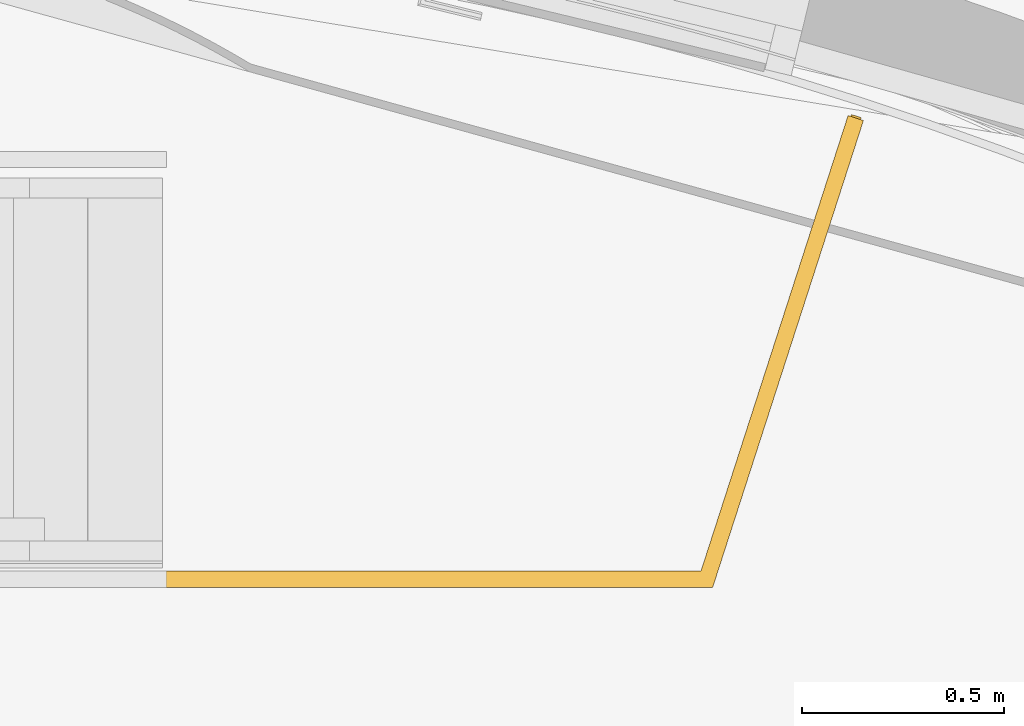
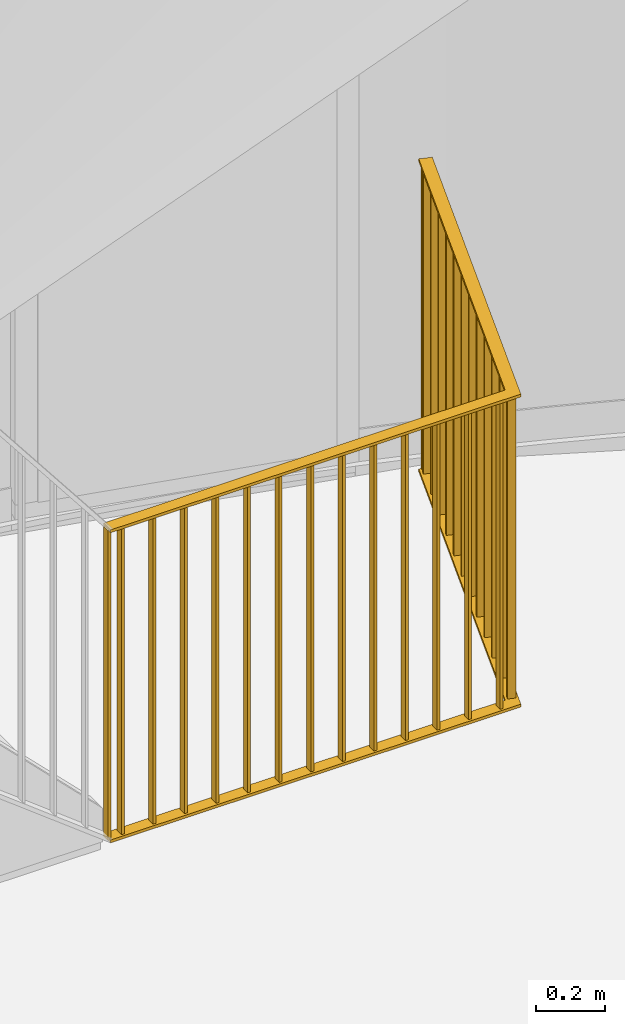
# One storey, part 66 of 66: 1 railing.
"""IFC2X3 building model written with IfcOpenShell, lengths in millimetres."""

from ifc_helpers import new_model, entity, si_unit, converted_unit, derived_unit, direction, frame, origin, place, context, subcontext, project, spatial, faceted_brep, material, material_list, element, save


model = new_model("IFC2X3")

# Units and contexts
model_context = context("Model", 3, precision=0.01, world=origin(), true_north=direction((6.12303176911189e-17, 1.0)))
body_context = subcontext(model_context, "Body", "Model", "MODEL_VIEW")
ifc_project = project(units=[si_unit("LENGTHUNIT", "METRE", prefix="MILLI"), si_unit("AREAUNIT", "SQUARE_METRE"), si_unit("VOLUMEUNIT", "CUBIC_METRE"), converted_unit("PLANEANGLEUNIT", "DEGREE", entity("IfcRatioMeasure", 0.0174532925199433), si_unit("PLANEANGLEUNIT", "RADIAN"), dimensions=[0, 0, 0, 0, 0, 0, 0]), si_unit("MASSUNIT", "GRAM", prefix="KILO"), derived_unit("MASSDENSITYUNIT", [(si_unit("MASSUNIT", "GRAM", prefix="KILO"), 1), (si_unit("LENGTHUNIT", "METRE"), -3)]), derived_unit("MOMENTOFINERTIAUNIT", [(si_unit("LENGTHUNIT", "METRE"), 4)]), si_unit("TIMEUNIT", "SECOND"), si_unit("FREQUENCYUNIT", "HERTZ"), si_unit("THERMODYNAMICTEMPERATUREUNIT", "DEGREE_CELSIUS"), derived_unit("THERMALTRANSMITTANCEUNIT", [(si_unit("MASSUNIT", "GRAM", prefix="KILO"), 1), (si_unit("THERMODYNAMICTEMPERATUREUNIT", "KELVIN"), -1), (si_unit("TIMEUNIT", "SECOND"), -3)]), derived_unit("VOLUMETRICFLOWRATEUNIT", [(si_unit("LENGTHUNIT", "METRE"), 3), (si_unit("TIMEUNIT", "SECOND"), -1)]), si_unit("ELECTRICCURRENTUNIT", "AMPERE"), si_unit("ELECTRICVOLTAGEUNIT", "VOLT"), si_unit("POWERUNIT", "WATT"), si_unit("FORCEUNIT", "NEWTON", prefix="KILO"), si_unit("ILLUMINANCEUNIT", "LUX"), si_unit("LUMINOUSFLUXUNIT", "LUMEN"), si_unit("LUMINOUSINTENSITYUNIT", "CANDELA"), derived_unit("USERDEFINED", [(si_unit("MASSUNIT", "GRAM", prefix="KILO"), -1), (si_unit("LENGTHUNIT", "METRE"), -2), (si_unit("TIMEUNIT", "SECOND"), 3), (si_unit("LUMINOUSFLUXUNIT", "LUMEN"), 1)]), derived_unit("LINEARVELOCITYUNIT", [(si_unit("LENGTHUNIT", "METRE"), 1), (si_unit("TIMEUNIT", "SECOND"), -1)]), si_unit("PRESSUREUNIT", "PASCAL"), derived_unit("USERDEFINED", [(si_unit("LENGTHUNIT", "METRE"), -2), (si_unit("MASSUNIT", "GRAM", prefix="KILO"), 1), (si_unit("TIMEUNIT", "SECOND"), -2)]), derived_unit("LINEARFORCEUNIT", [(si_unit("MASSUNIT", "GRAM", prefix="KILO"), 1), (si_unit("LENGTHUNIT", "METRE"), 1), (si_unit("TIMEUNIT", "SECOND"), -2), (si_unit("LENGTHUNIT", "METRE"), -1)]), derived_unit("PLANARFORCEUNIT", [(si_unit("MASSUNIT", "GRAM", prefix="KILO"), 1), (si_unit("LENGTHUNIT", "METRE"), 1), (si_unit("TIMEUNIT", "SECOND"), -2), (si_unit("LENGTHUNIT", "METRE"), -2)])], contexts=[model_context])

# Site, building, storey
site_placement = place(None, origin())
site = spatial("IfcSite", under=ifc_project, at=site_placement, Name="Default", CompositionType="ELEMENT")
building_placement = place(site_placement, origin())
building = spatial("IfcBuilding", under=site, at=building_placement, Name="-", CompositionType="ELEMENT")
storey_placement = place(building_placement, frame((0.0, 0.0, 3070.0)))
storey = spatial("IfcBuildingStorey", under=building, at=storey_placement, Name="01 eerste verdieping", CompositionType="ELEMENT", Elevation=3070.00000000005)

# Railing
ifc_material_1 = material(Name="AL_Aluminium antraciet")
ifc_material_2 = material(Name="AL_Aluminium RAL 7021")
ifc_material_list = material_list([ifc_material_1, ifc_material_2])
railing_placement = place(storey_placement, frame((51726.6203901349, 27115.5965964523, 425.0)))
element("IfcRailing", 1, at=railing_placement, inside=storey, material=ifc_material_list, Name="Railing:NLRS_34_RAI_UN_spijlen 2", ObjectType="Railing:NLRS_34_RAI_UN_spijlen 2", PredefinedType="NOTDEFINED", context=body_context, shape_type="Brep", body=[
    faceted_brep([(54.7762133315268, 7.50000000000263, 1095.0), (54.7762133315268, 32.5000000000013, 1095.0), (44.7762133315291, 32.5000000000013, 1095.0), (44.7762133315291, 7.50000000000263, 1095.0), (54.7762133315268, 7.50000000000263, 5.0), (44.7762133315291, 7.50000000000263, 5.0), (44.7762133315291, 32.5000000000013, 5.0), (54.7762133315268, 32.5000000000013, 5.0)], [[[0, 1, 2, 3]], [[4, 5, 6, 7]], [[3, 5, 4, 0]], [[2, 6, 5, 3]], [[1, 7, 6, 2]], [[0, 4, 7, 1]]]),
    faceted_brep([(159.776213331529, 7.50000000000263, 1095.0), (159.776213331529, 32.5000000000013, 1095.0), (149.776213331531, 32.5000000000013, 1095.0), (149.776213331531, 7.50000000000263, 1095.0), (159.776213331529, 7.50000000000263, 5.0), (149.776213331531, 7.50000000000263, 5.0), (149.776213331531, 32.5000000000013, 5.0), (159.776213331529, 32.5000000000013, 5.0)], [[[0, 1, 2, 3]], [[4, 5, 6, 7]], [[3, 5, 4, 0]], [[2, 6, 5, 3]], [[1, 7, 6, 2]], [[0, 4, 7, 1]]]),
    faceted_brep([(264.776213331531, 7.50000000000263, 1095.0), (264.776213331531, 32.5000000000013, 1095.0), (254.776213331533, 32.5000000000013, 1095.0), (254.776213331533, 7.50000000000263, 1095.0), (264.776213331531, 7.50000000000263, 5.0), (254.776213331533, 7.50000000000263, 5.0), (254.776213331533, 32.5000000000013, 5.0), (264.776213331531, 32.5000000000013, 5.0)], [[[0, 1, 2, 3]], [[4, 5, 6, 7]], [[3, 5, 4, 0]], [[2, 6, 5, 3]], [[1, 7, 6, 2]], [[0, 4, 7, 1]]]),
    faceted_brep([(369.776213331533, 7.50000000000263, 1095.0), (369.776213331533, 32.5000000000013, 1095.0), (359.776213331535, 32.5000000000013, 1095.0), (359.776213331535, 7.50000000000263, 1095.0), (369.776213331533, 7.50000000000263, 5.0), (359.776213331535, 7.50000000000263, 5.0), (359.776213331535, 32.5000000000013, 5.0), (369.776213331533, 32.5000000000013, 5.0)], [[[0, 1, 2, 3]], [[4, 5, 6, 7]], [[3, 5, 4, 0]], [[2, 6, 5, 3]], [[1, 7, 6, 2]], [[0, 4, 7, 1]]]),
    faceted_brep([(474.776213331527, 7.50000000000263, 1095.0), (474.776213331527, 32.5000000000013, 1095.0), (464.776213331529, 32.5000000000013, 1095.0), (464.776213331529, 7.50000000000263, 1095.0), (474.776213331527, 7.50000000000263, 5.0), (464.776213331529, 7.50000000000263, 5.0), (464.776213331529, 32.5000000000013, 5.0), (474.776213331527, 32.5000000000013, 5.0)], [[[0, 1, 2, 3]], [[4, 5, 6, 7]], [[3, 5, 4, 0]], [[2, 6, 5, 3]], [[1, 7, 6, 2]], [[0, 4, 7, 1]]]),
    faceted_brep([(579.776213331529, 7.50000000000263, 1095.0), (579.776213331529, 32.5000000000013, 1095.0), (569.776213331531, 32.5000000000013, 1095.0), (569.776213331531, 7.50000000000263, 1095.0), (579.776213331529, 7.50000000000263, 5.0), (569.776213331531, 7.50000000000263, 5.0), (569.776213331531, 32.5000000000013, 5.0), (579.776213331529, 32.5000000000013, 5.0)], [[[0, 1, 2, 3]], [[4, 5, 6, 7]], [[3, 5, 4, 0]], [[2, 6, 5, 3]], [[1, 7, 6, 2]], [[0, 4, 7, 1]]]),
    faceted_brep([(684.776213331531, 7.50000000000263, 1095.0), (684.776213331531, 32.5000000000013, 1095.0), (674.776213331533, 32.5000000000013, 1095.0), (674.776213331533, 7.50000000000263, 1095.0), (684.776213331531, 7.50000000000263, 5.0), (674.776213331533, 7.50000000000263, 5.0), (674.776213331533, 32.5000000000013, 5.0), (684.776213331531, 32.5000000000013, 5.0)], [[[0, 1, 2, 3]], [[4, 5, 6, 7]], [[3, 5, 4, 0]], [[2, 6, 5, 3]], [[1, 7, 6, 2]], [[0, 4, 7, 1]]]),
    faceted_brep([(789.776213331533, 7.50000000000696, 1095.0), (789.776213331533, 32.5000000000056, 1095.0), (779.776213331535, 32.5000000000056, 1095.0), (779.776213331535, 7.50000000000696, 1095.0), (789.776213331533, 7.50000000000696, 5.0), (779.776213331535, 7.50000000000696, 5.0), (779.776213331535, 32.5000000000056, 5.0), (789.776213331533, 32.5000000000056, 5.0)], [[[0, 1, 2, 3]], [[4, 5, 6, 7]], [[3, 5, 4, 0]], [[2, 6, 5, 3]], [[1, 7, 6, 2]], [[0, 4, 7, 1]]]),
    faceted_brep([(894.776213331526, 7.50000000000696, 1095.0), (894.776213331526, 32.5000000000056, 1095.0), (884.776213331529, 32.5000000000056, 1095.0), (884.776213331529, 7.50000000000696, 1095.0), (894.776213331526, 7.50000000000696, 5.0), (884.776213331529, 7.50000000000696, 5.0), (884.776213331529, 32.5000000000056, 5.0), (894.776213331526, 32.5000000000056, 5.0)], [[[0, 1, 2, 3]], [[4, 5, 6, 7]], [[3, 5, 4, 0]], [[2, 6, 5, 3]], [[1, 7, 6, 2]], [[0, 4, 7, 1]]]),
    faceted_brep([(999.776213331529, 7.50000000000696, 1095.0), (999.776213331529, 32.5000000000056, 1095.0), (989.776213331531, 32.5000000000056, 1095.0), (989.776213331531, 7.50000000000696, 1095.0), (999.776213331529, 7.50000000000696, 5.0), (989.776213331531, 7.50000000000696, 5.0), (989.776213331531, 32.5000000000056, 5.0), (999.776213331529, 32.5000000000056, 5.0)], [[[0, 1, 2, 3]], [[4, 5, 6, 7]], [[3, 5, 4, 0]], [[2, 6, 5, 3]], [[1, 7, 6, 2]], [[0, 4, 7, 1]]]),
    faceted_brep([(1104.77621333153, 7.50000000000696, 1095.0), (1104.77621333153, 32.5000000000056, 1095.0), (1094.77621333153, 32.5000000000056, 1095.0), (1094.77621333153, 7.50000000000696, 1095.0), (1104.77621333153, 7.50000000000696, 5.0), (1094.77621333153, 7.50000000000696, 5.0), (1094.77621333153, 32.5000000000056, 5.0), (1104.77621333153, 32.5000000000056, 5.0)], [[[0, 1, 2, 3]], [[4, 5, 6, 7]], [[3, 5, 4, 0]], [[2, 6, 5, 3]], [[1, 7, 6, 2]], [[0, 4, 7, 1]]]),
    faceted_brep([(1209.77621333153, 7.50000000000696, 1095.0), (1209.77621333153, 32.5000000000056, 1095.0), (1199.77621333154, 32.5000000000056, 1095.0), (1199.77621333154, 7.50000000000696, 1095.0), (1209.77621333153, 7.50000000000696, 5.0), (1199.77621333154, 7.50000000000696, 5.0), (1199.77621333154, 32.5000000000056, 5.0), (1209.77621333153, 32.5000000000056, 5.0)], [[[0, 1, 2, 3]], [[4, 5, 6, 7]], [[3, 5, 4, 0]], [[2, 6, 5, 3]], [[1, 7, 6, 2]], [[0, 4, 7, 1]]]),
    faceted_brep([(1314.77621333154, 7.50000000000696, 1095.0), (1314.77621333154, 32.5000000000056, 1095.0), (1304.77621333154, 32.5000000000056, 1095.0), (1304.77621333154, 7.50000000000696, 1095.0), (1314.77621333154, 7.50000000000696, 5.0), (1304.77621333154, 7.50000000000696, 5.0), (1304.77621333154, 32.5000000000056, 5.0), (1314.77621333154, 32.5000000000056, 5.0)], [[[0, 1, 2, 3]], [[4, 5, 6, 7]], [[3, 5, 4, 0]], [[2, 6, 5, 3]], [[1, 7, 6, 2]], [[0, 4, 7, 1]]]),
    faceted_brep([(1375.19629083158, 43.2523249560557, 1095.0), (1351.40584506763, 50.9344269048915, 1095.0), (1348.33300428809, 41.4182485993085, 1095.0), (1372.12345005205, 33.7361466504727, 1095.0), (1375.19629083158, 43.2523249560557, 5.0), (1372.12345005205, 33.7361466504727, 5.0), (1348.33300428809, 41.4182485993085, 5.0), (1351.40584506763, 50.9344269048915, 5.0)], [[[0, 1, 2, 3]], [[4, 5, 6, 7]], [[3, 5, 4, 0]], [[2, 6, 5, 3]], [[1, 7, 6, 2]], [[0, 4, 7, 1]]]),
    faceted_brep([(1407.46111901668, 143.172197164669, 1095.0), (1383.67067325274, 150.854299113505, 1095.0), (1380.5978324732, 141.338120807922, 1095.0), (1404.38827823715, 133.656018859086, 1095.0), (1407.46111901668, 143.172197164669, 5.0), (1404.38827823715, 133.656018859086, 5.0), (1380.5978324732, 141.338120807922, 5.0), (1383.67067325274, 150.854299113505, 5.0)], [[[0, 1, 2, 3]], [[4, 5, 6, 7]], [[3, 5, 4, 0]], [[2, 6, 5, 3]], [[1, 7, 6, 2]], [[0, 4, 7, 1]]]),
    faceted_brep([(1439.7259472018, 243.092069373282, 1095.0), (1415.93550143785, 250.774171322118, 1095.0), (1412.86266065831, 241.257993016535, 1095.0), (1436.65310642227, 233.575891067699, 1095.0), (1439.7259472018, 243.092069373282, 5.0), (1436.65310642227, 233.575891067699, 5.0), (1412.86266065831, 241.257993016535, 5.0), (1415.93550143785, 250.774171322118, 5.0)], [[[0, 1, 2, 3]], [[4, 5, 6, 7]], [[3, 5, 4, 0]], [[2, 6, 5, 3]], [[1, 7, 6, 2]], [[0, 4, 7, 1]]]),
    faceted_brep([(1471.9907753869, 343.011941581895, 1095.0), (1448.20032962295, 350.694043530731, 1095.0), (1445.12748884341, 341.177865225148, 1095.0), (1468.91793460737, 333.495763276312, 1095.0), (1471.9907753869, 343.011941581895, 5.0), (1468.91793460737, 333.495763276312, 5.0), (1445.12748884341, 341.177865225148, 5.0), (1448.20032962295, 350.694043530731, 5.0)], [[[0, 1, 2, 3]], [[4, 5, 6, 7]], [[3, 5, 4, 0]], [[2, 6, 5, 3]], [[1, 7, 6, 2]], [[0, 4, 7, 1]]]),
    faceted_brep([(1504.25560357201, 442.931813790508, 1095.0), (1480.46515780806, 450.613915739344, 1095.0), (1477.39231702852, 441.097737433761, 1095.0), (1501.18276279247, 433.415635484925, 1095.0), (1504.25560357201, 442.931813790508, 5.0), (1501.18276279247, 433.415635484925, 5.0), (1477.39231702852, 441.097737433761, 5.0), (1480.46515780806, 450.613915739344, 5.0)], [[[0, 1, 2, 3]], [[4, 5, 6, 7]], [[3, 5, 4, 0]], [[2, 6, 5, 3]], [[1, 7, 6, 2]], [[0, 4, 7, 1]]]),
    faceted_brep([(1536.52043175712, 542.851685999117, 1095.0), (1512.72998599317, 550.533787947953, 1095.0), (1509.65714521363, 541.01760964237, 1095.0), (1533.44759097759, 533.335507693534, 1095.0), (1536.52043175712, 542.851685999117, 5.0), (1533.44759097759, 533.335507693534, 5.0), (1509.65714521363, 541.01760964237, 5.0), (1512.72998599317, 550.533787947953, 5.0)], [[[0, 1, 2, 3]], [[4, 5, 6, 7]], [[3, 5, 4, 0]], [[2, 6, 5, 3]], [[1, 7, 6, 2]], [[0, 4, 7, 1]]]),
    faceted_brep([(1568.78525994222, 642.77155820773, 1095.0), (1544.99481417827, 650.453660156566, 1095.0), (1541.92197339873, 640.937481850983, 1095.0), (1565.71241916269, 633.255379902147, 1095.0), (1568.78525994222, 642.77155820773, 5.0), (1565.71241916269, 633.255379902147, 5.0), (1541.92197339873, 640.937481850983, 5.0), (1544.99481417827, 650.453660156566, 5.0)], [[[0, 1, 2, 3]], [[4, 5, 6, 7]], [[3, 5, 4, 0]], [[2, 6, 5, 3]], [[1, 7, 6, 2]], [[0, 4, 7, 1]]]),
    faceted_brep([(1601.05008812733, 742.691430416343, 1095.0), (1577.25964236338, 750.373532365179, 1095.0), (1574.18680158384, 740.857354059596, 1095.0), (1597.9772473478, 733.17525211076, 1095.0), (1601.05008812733, 742.691430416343, 5.0), (1597.9772473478, 733.17525211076, 5.0), (1574.18680158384, 740.857354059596, 5.0), (1577.25964236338, 750.373532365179, 5.0)], [[[0, 1, 2, 3]], [[4, 5, 6, 7]], [[3, 5, 4, 0]], [[2, 6, 5, 3]], [[1, 7, 6, 2]], [[0, 4, 7, 1]]]),
    faceted_brep([(1633.31491631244, 842.611302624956, 1095.0), (1609.52447054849, 850.293404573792, 1095.0), (1606.45162976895, 840.777226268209, 1095.0), (1630.24207553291, 833.095124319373, 1095.0), (1633.31491631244, 842.611302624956, 5.0), (1630.24207553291, 833.095124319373, 5.0), (1606.45162976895, 840.777226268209, 5.0), (1609.52447054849, 850.293404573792, 5.0)], [[[0, 1, 2, 3]], [[4, 5, 6, 7]], [[3, 5, 4, 0]], [[2, 6, 5, 3]], [[1, 7, 6, 2]], [[0, 4, 7, 1]]]),
    faceted_brep([(1665.57974449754, 942.531174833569, 1095.0), (1641.78929873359, 950.213276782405, 1095.0), (1638.71645795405, 940.697098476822, 1095.0), (1662.50690371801, 933.014996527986, 1095.0), (1665.57974449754, 942.531174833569, 5.0), (1662.50690371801, 933.014996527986, 5.0), (1638.71645795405, 940.697098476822, 5.0), (1641.78929873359, 950.213276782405, 5.0)], [[[0, 1, 2, 3]], [[4, 5, 6, 7]], [[3, 5, 4, 0]], [[2, 6, 5, 3]], [[1, 7, 6, 2]], [[0, 4, 7, 1]]]),
    faceted_brep([(1697.84457268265, 1042.45104704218, 1095.0), (1674.0541269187, 1050.13314899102, 1095.0), (1670.98128613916, 1040.61697068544, 1095.0), (1694.77173190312, 1032.9348687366, 1095.0), (1697.84457268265, 1042.45104704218, 5.0), (1694.77173190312, 1032.9348687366, 5.0), (1670.98128613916, 1040.61697068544, 5.0), (1674.0541269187, 1050.13314899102, 5.0)], [[[0, 1, 2, 3]], [[4, 5, 6, 7]], [[3, 5, 4, 0]], [[2, 6, 5, 3]], [[1, 7, 6, 2]], [[0, 4, 7, 1]]]),
    faceted_brep([(1730.10940086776, 1142.3709192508, 1095.0), (1706.31895510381, 1150.05302119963, 1095.0), (1703.24611432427, 1140.53684289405, 1095.0), (1727.03656008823, 1132.85474094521, 1095.0), (1730.10940086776, 1142.3709192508, 5.0), (1727.03656008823, 1132.85474094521, 5.0), (1703.24611432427, 1140.53684289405, 5.0), (1706.31895510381, 1150.05302119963, 5.0)], [[[0, 1, 2, 3]], [[4, 5, 6, 7]], [[3, 5, 4, 0]], [[2, 6, 5, 3]], [[1, 7, 6, 2]], [[0, 4, 7, 1]]]),
    faceted_brep([(10.0, 7.50000000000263, 1095.0), (10.0, 32.5000000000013, 1095.0), (0.0, 32.5000000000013, 1095.0), (0.0, 7.50000000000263, 1095.0), (10.0, 7.50000000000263, 5.0), (0.0, 7.50000000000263, 5.0), (0.0, 32.5000000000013, 5.0), (10.0, 32.5000000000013, 5.0)], [[[0, 1, 2, 3]], [[4, 5, 6, 7]], [[3, 5, 4, 0]], [[2, 6, 5, 3]], [[1, 7, 6, 2]], [[0, 4, 7, 1]]]),
    faceted_brep([(1737.32162176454, 1164.70620602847, 1095.0), (1713.53117600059, 1172.3883079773, 1095.0), (1710.45833522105, 1162.87212967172, 1095.0), (1734.24878098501, 1155.19002772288, 1095.0), (1737.32162176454, 1164.70620602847, 5.0), (1734.24878098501, 1155.19002772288, 5.0), (1710.45833522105, 1162.87212967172, 5.0), (1713.53117600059, 1172.3883079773, 5.0)], [[[0, 1, 2, 3]], [[4, 5, 6, 7]], [[3, 5, 4, 0]], [[2, 6, 5, 3]], [[1, 7, 6, 2]], [[0, 4, 7, 1]]]),
    faceted_brep([(1742.92233510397, 1157.64348629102, 1100.0), (1742.92233510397, 1157.64348629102, 1090.0), (1704.85762188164, 1169.93484940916, 1090.0), (1704.85762188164, 1169.93484940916, 1100.0), (1369.11112659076, 0.0, 1100.0), (1369.11112659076, 0.0, 1090.0), (1339.99372673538, 40.0, 1090.0), (1339.99372673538, 40.0, 1100.0), (5.0, 0.0, 1100.0), (5.0, 40.0, 1100.0), (5.0, 40.0, 1090.0), (5.0, 0.0, 1090.0)], [[[0, 1, 2, 3]], [[1, 0, 4, 5]], [[2, 1, 5, 6]], [[3, 2, 6, 7]], [[0, 3, 7, 4]], [[8, 9, 10, 11]], [[5, 4, 8, 11]], [[6, 5, 11, 10]], [[7, 6, 10, 9]], [[4, 7, 9, 8]]]),
    faceted_brep([(1742.92233510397, 1157.64348629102, 10.0), (1742.92233510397, 1157.64348629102, 0.0), (1704.85762188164, 1169.93484940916, 0.0), (1704.85762188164, 1169.93484940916, 10.0), (1369.11112659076, 0.0, 10.0), (1369.11112659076, 0.0, 0.0), (1339.99372673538, 40.0, 0.0), (1339.99372673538, 40.0, 10.0), (5.0, 0.0, 10.0), (5.0, 40.0, 10.0), (5.0, 40.0, 0.0), (5.0, 0.0, 0.0)], [[[0, 1, 2, 3]], [[1, 0, 4, 5]], [[2, 1, 5, 6]], [[3, 2, 6, 7]], [[0, 3, 7, 4]], [[8, 9, 10, 11]], [[5, 4, 8, 11]], [[6, 5, 11, 10]], [[7, 6, 10, 9]], [[4, 7, 9, 8]]]),
])

save(model, "model.ifc")
